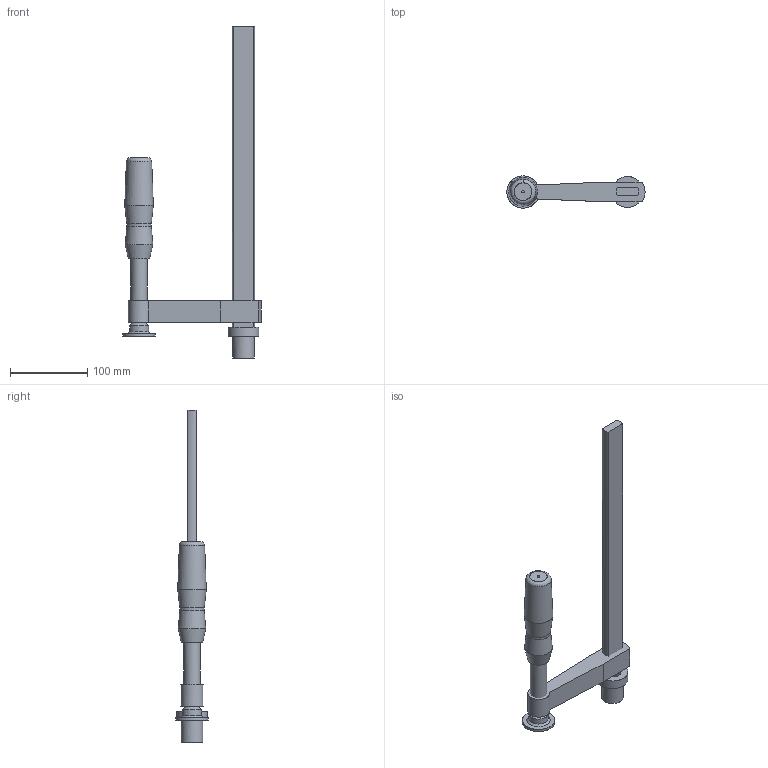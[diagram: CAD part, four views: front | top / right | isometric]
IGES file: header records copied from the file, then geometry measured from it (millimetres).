
Start section: ZWSOFT
Global section: file name: TW28-30-12-2K.igs; native system: ZW3D; preprocessor: 1.0; author: ZW3D; organization: ZWSOFT; date: 140317.095651; units: millimetre
Bounding box: 178.59 x 41.7 x 429 mm (x, y, z)
Surface area: 83072.7 mm2 (no closed solid volume)
Topology: 0 solids, 0 shells, 37 faces, 187 edges, 156 vertices
Faces by surface type: bspline 37
